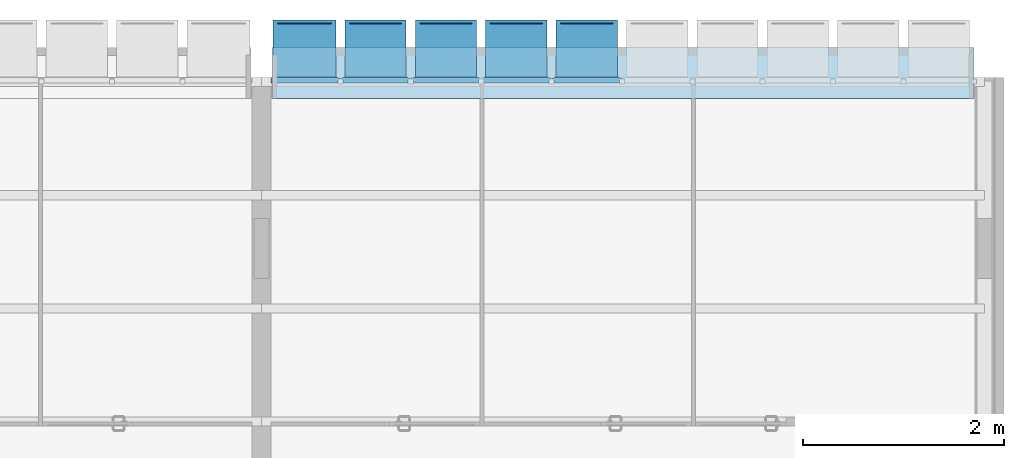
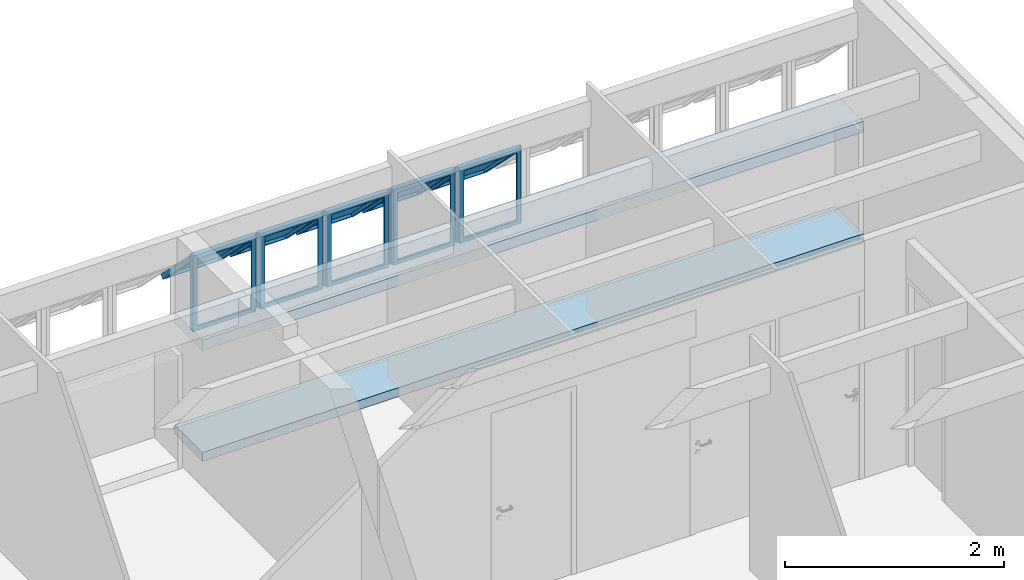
# One storey, part 16 of 40: 5 plates, 2 slabs, 1 element without a shape of its own.
"""IFC4 building model written with IfcOpenShell, lengths in millimetres."""

from ifc_helpers import new_model, entity, si_unit, converted_unit, derived_unit, direction, frame, origin_with_axes, place, context, subcontext, project, spatial, line, indexed_curve, outline, extrude, polygons, source, transform, mapped, material, layer, layer_set, layer_usage, constituent, constituent_set, type_object, element, aggregate, save


model = new_model("IFC4")

# Units and contexts
model_context = context("Model", 3, precision=0.01, world=origin_with_axes(), true_north=direction((0.0, 1.0)))
body_context = subcontext(model_context, "Body", "Model", "MODEL_VIEW")
ifc_project = project(units=[si_unit("LENGTHUNIT", "METRE", prefix="MILLI"), si_unit("AREAUNIT", "SQUARE_METRE"), si_unit("VOLUMEUNIT", "CUBIC_METRE"), converted_unit("PLANEANGLEUNIT", "DEGREE", entity("IfcPlaneAngleMeasure", 0.0174532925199), si_unit("PLANEANGLEUNIT", "RADIAN"), dimensions=[0, 0, 0, 0, 0, 0, 0]), converted_unit("TIMEUNIT", "Year", entity("IfcTimeMeasure", 31556926.0), si_unit("TIMEUNIT", "SECOND"), dimensions=[0, 0, 1, 0, 0, 0, 0]), si_unit("MASSUNIT", "GRAM", prefix="KILO"), si_unit("THERMODYNAMICTEMPERATUREUNIT", "DEGREE_CELSIUS"), si_unit("LUMINOUSINTENSITYUNIT", "LUMEN"), si_unit("ENERGYUNIT", "JOULE", prefix="MEGA"), derived_unit("THERMALCONDUCTANCEUNIT", [(si_unit("POWERUNIT", "WATT"), 1), (si_unit("LENGTHUNIT", "METRE"), -1), (si_unit("THERMODYNAMICTEMPERATUREUNIT", "KELVIN"), -1)]), derived_unit("SPECIFICHEATCAPACITYUNIT", [(si_unit("ENERGYUNIT", "JOULE"), 1), (si_unit("MASSUNIT", "GRAM", prefix="KILO"), -1), (si_unit("THERMODYNAMICTEMPERATUREUNIT", "KELVIN"), -1)]), derived_unit("MASSDENSITYUNIT", [(si_unit("MASSUNIT", "GRAM", prefix="KILO"), 1), (si_unit("VOLUMEUNIT", "CUBIC_METRE"), -1)])], contexts=[model_context])

# Site, building, storey
site_placement = place(None, origin_with_axes())
site = spatial("IfcSite", under=ifc_project, at=site_placement, Name="Local", CompositionType="ELEMENT")
building_placement = place(site_placement, origin_with_axes())
building = spatial("IfcBuilding", under=site, at=building_placement, Name="Construção", CompositionType="ELEMENT")
storey_placement = place(building_placement, frame((0.0, 0.0, 5300.0), z_axis=(0.0, 0.0, 1.0), x_axis=(1.0, 0.0, 0.0)))
storey = spatial("IfcBuildingStorey", under=building, at=storey_placement, Name="Terceiro Pavimento", CompositionType="ELEMENT", Elevation=5300.0)

# Slab
ifc_material_1 = material(Name="Concreto Armado Moldado in Loco - Estrutural")
ifc_layer_1 = layer(ifc_material_1, 120.0, ventilated="UNKNOWN", Name="Concreto Armado Moldado in Loco - Estrutural")
ifc_layer_set_1 = layer_set([ifc_layer_1], Name="Concreto Armado Moldado in Loco - Estrutural 120")
ifc_layer_usage_1 = layer_usage(ifc_layer_set_1, "AXIS3", "NEGATIVE", 120.0)
slab_type_1 = type_object("IfcSlabType", Name="Concreto Armado Moldado in Loco - Estrutural 120", PredefinedType="FLOOR")
slab_1_placement = place(storey_placement, frame((14470.0, 26160.0, 1355.0), z_axis=(0.0, 0.0, 1.0), x_axis=(1.0, 0.0, 0.0)))
element("IfcSlab", 1, at=slab_1_placement, inside=storey, type_object=slab_type_1, material=ifc_layer_usage_1, Name="APTO12-LAJE-002", PredefinedType="FLOOR", context=body_context, shape_type="SweptSolid", body=[
    extrude(outline(indexed_curve([(0.0, 0.0), (-6980.0, 0.0), (-6980.0, -510.0), (0.0, -510.0)], segments=[line(1, 2, 3, 4, 1)])), frame((0.0, 0.0, -120.0), z_axis=(0.0, 0.0, 1.0), x_axis=(1.0, 0.0, 0.0)), (0.0, 0.0, 1.0), 120.0),
])

# Window, plates
window_type = type_object("IfcWindowType", Name="Tipo de Parede Cortina", PartitioningType="NOTDEFINED", PredefinedType="NOTDEFINED")
window_placement = place(storey_placement, frame((8520.0, 25844.9790225, 1355.02054151), z_axis=(0.0, 0.0, 1.0), x_axis=(1.0, 0.0, 0.0)))
window = element("IfcWindow", 2, at=window_placement, inside=storey, type_object=window_type, Name="APTO12-JANELA-001", PredefinedType="NOTDEFINED")
ifc_material_2 = material(Name="Alumínio")
ifc_constituent_1 = constituent(ifc_material_2, Name="Alumínio")
ifc_material_3 = material(Name="Vidro")
ifc_constituent_2 = constituent(ifc_material_3, Name="Vidro")
ifc_constituent_set_1 = constituent_set(constituents=[ifc_constituent_1, ifc_constituent_2])
plate_type_1 = type_object("IfcPlateType", Name="Painel Principal 690 x 845 x 20", PredefinedType="CURTAIN_PANEL")
shared_shape_1 = source(origin_with_axes(), body_context, "Body", "Tessellation", [
    polygons([(25.0000036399, 0.0, -40.0), (674.999997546, 0.0, -40.0), (674.999997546, 0.0, -35.0), (25.0000036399, 0.0, -35.0), (70.0000036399, 45.0, -40.0), (629.999997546, 45.0, -40.0), (629.999997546, 45.0, -35.0), (70.0000036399, 45.0, -35.0)], [[[1, 2, 3, 4]], [[1, 5, 6, 2]], [[2, 6, 7, 3]], [[4, 3, 7, 8]], [[5, 1, 4, 8]], [[6, 5, 8, 7]]], closed=True),
    polygons([(674.999997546, 0.0, -40.0), (674.999997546, 844.999891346, -40.0), (674.999997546, 844.999891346, -35.0), (674.999997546, 0.0, -35.0), (629.999997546, 45.0, -40.0), (629.999997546, 799.999891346, -40.0), (629.999997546, 799.999891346, -35.0), (629.999997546, 45.0, -35.0)], [[[1, 2, 3, 4]], [[1, 5, 6, 2]], [[2, 6, 7, 3]], [[4, 3, 7, 8]], [[5, 1, 4, 8]], [[6, 5, 8, 7]]], closed=True),
    polygons([(25.0000036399, 844.999891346, -40.0), (70.0000036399, 799.999891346, -40.0), (70.0000036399, 799.999891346, -35.0), (25.0000036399, 844.999891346, -35.0), (674.999997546, 844.999891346, -40.0), (629.999997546, 799.999891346, -40.0), (629.999997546, 799.999891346, -35.0), (674.999997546, 844.999891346, -35.0)], [[[1, 2, 3, 4]], [[1, 5, 6, 2]], [[2, 6, 7, 3]], [[4, 3, 7, 8]], [[5, 1, 4, 8]], [[6, 5, 8, 7]]], closed=True),
    polygons([(25.0000036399, 0.0, -40.0), (70.0000036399, 45.0, -40.0), (70.0000036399, 45.0, -35.0), (25.0000036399, 0.0, -35.0), (25.0000036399, 844.999891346, -40.0), (70.0000036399, 799.999891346, -40.0), (70.0000036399, 799.999891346, -35.0), (25.0000036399, 844.999891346, -35.0)], [[[1, 2, 3, 4]], [[1, 5, 6, 2]], [[2, 6, 7, 3]], [[4, 3, 7, 8]], [[5, 1, 4, 8]], [[6, 5, 8, 7]]], closed=True),
    polygons([(25.0000036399, 0.0, -35.0), (674.999997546, 0.0, -35.0), (674.999997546, 0.0, 15.0), (25.0000036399, 0.0, 15.0), (45.0000036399, 20.0, -35.0), (654.999997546, 20.0, -35.0), (654.999997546, 20.0, 15.0), (45.0000036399, 20.0, 15.0)], [[[1, 2, 3, 4]], [[1, 5, 6, 2]], [[2, 6, 7, 3]], [[4, 3, 7, 8]], [[5, 1, 4, 8]], [[6, 5, 8, 7]]], closed=True),
    polygons([(674.999997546, 0.0, -35.0), (674.999997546, 844.999891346, -35.0), (674.999997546, 844.999891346, 15.0), (674.999997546, 0.0, 15.0), (654.999997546, 20.0, -35.0), (654.999997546, 824.999891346, -35.0), (654.999997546, 824.999891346, 15.0), (654.999997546, 20.0, 15.0)], [[[1, 2, 3, 4]], [[1, 5, 6, 2]], [[2, 6, 7, 3]], [[4, 3, 7, 8]], [[5, 1, 4, 8]], [[6, 5, 8, 7]]], closed=True),
    polygons([(25.0000036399, 844.999891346, -35.0), (45.0000036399, 824.999891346, -35.0), (45.0000036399, 824.999891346, 15.0), (25.0000036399, 844.999891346, 15.0), (674.999997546, 844.999891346, -35.0), (654.999997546, 824.999891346, -35.0), (654.999997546, 824.999891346, 15.0), (674.999997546, 844.999891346, 15.0)], [[[1, 2, 3, 4]], [[1, 5, 6, 2]], [[2, 6, 7, 3]], [[4, 3, 7, 8]], [[5, 1, 4, 8]], [[6, 5, 8, 7]]], closed=True),
    polygons([(25.0000036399, 0.0, -35.0), (45.0000036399, 20.0, -35.0), (45.0000036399, 20.0, 15.0), (25.0000036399, 0.0, 15.0), (25.0000036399, 844.999891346, -35.0), (45.0000036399, 824.999891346, -35.0), (45.0000036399, 824.999891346, 15.0), (25.0000036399, 844.999891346, 15.0)], [[[1, 2, 3, 4]], [[1, 5, 6, 2]], [[2, 6, 7, 3]], [[4, 3, 7, 8]], [[5, 1, 4, 8]], [[6, 5, 8, 7]]], closed=True),
    polygons([(694.999995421, 0.0, -10.0), (694.999995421, 844.999891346, -10.0), (694.999995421, 844.999891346, 10.0), (694.999995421, 0.0, 10.0), (674.999997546, 0.0, -10.0), (674.999997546, 844.999891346, -10.0), (674.999997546, 844.999891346, 10.0), (674.999997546, 0.0, 10.0)], [[[1, 2, 3, 4]], [[1, 5, 6, 2]], [[2, 6, 7, 3]], [[4, 3, 7, 8]], [[5, 1, 4, 8]], [[6, 5, 8, 7]]], closed=True),
    polygons([(5.00000576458, 844.999891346, -10.0), (5.00000576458, 0.0, -10.0), (5.00000576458, 0.0, 10.0), (5.00000576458, 844.999891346, 10.0), (25.0000036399, 844.999891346, -10.0), (25.0000036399, 0.0, -10.0), (25.0000036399, 0.0, 10.0), (25.0000036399, 844.999891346, 10.0)], [[[1, 2, 3, 4]], [[1, 5, 6, 2]], [[2, 6, 7, 3]], [[4, 3, 7, 8]], [[5, 1, 4, 8]], [[6, 5, 8, 7]]], closed=True),
    polygons([(90.0000036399, 252.243475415, 517.045737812), (90.0000036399, 757.824747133, 11.4644660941), (90.0000036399, 796.715620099, 50.3553390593), (90.0000036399, 291.13434838, 555.936610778), (45.0000036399, 220.423670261, 548.865542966), (45.0000036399, 789.644552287, -20.3553390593), (45.0000036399, 828.535425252, 18.5355339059), (45.0000036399, 259.314543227, 587.756415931)], [[[1, 2, 3, 4]], [[1, 5, 6, 2]], [[2, 6, 7, 3]], [[4, 3, 7, 8]], [[5, 1, 4, 8]], [[6, 5, 8, 7]]], closed=True),
    polygons([(654.999997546, 220.423670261, 548.865542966), (654.999997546, 789.644552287, -20.3553390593), (654.999997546, 828.535425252, 18.5355339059), (654.999997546, 259.314543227, 587.756415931), (609.999997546, 252.243475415, 517.045737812), (609.999997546, 757.824747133, 11.4644660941), (609.999997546, 796.715620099, 50.3553390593), (609.999997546, 291.13434838, 555.936610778)], [[[1, 2, 3, 4]], [[1, 5, 6, 2]], [[2, 6, 7, 3]], [[4, 3, 7, 8]], [[5, 1, 4, 8]], [[6, 5, 8, 7]]], closed=True),
    polygons([(654.999997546, 220.423670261, 548.865542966), (609.999997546, 252.243475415, 517.045737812), (609.999997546, 291.13434838, 555.936610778), (654.999997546, 259.314543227, 587.756415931), (45.0000036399, 220.423670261, 548.865542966), (90.0000036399, 252.243475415, 517.045737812), (90.0000036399, 291.13434838, 555.936610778), (45.0000036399, 259.314543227, 587.756415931)], [[[1, 2, 3, 4]], [[1, 5, 6, 2]], [[2, 6, 7, 3]], [[4, 3, 7, 8]], [[5, 1, 4, 8]], [[6, 5, 8, 7]]], closed=True),
    polygons([(45.0000036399, 789.644552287, -20.3553390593), (90.0000036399, 757.824747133, 11.4644660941), (90.0000036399, 796.715620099, 50.3553390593), (45.0000036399, 828.535425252, 18.5355339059), (654.999997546, 789.644552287, -20.3553390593), (609.999997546, 757.824747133, 11.4644660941), (609.999997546, 796.715620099, 50.3553390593), (654.999997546, 828.535425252, 18.5355339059)], [[[1, 2, 3, 4]], [[1, 5, 6, 2]], [[2, 6, 7, 3]], [[4, 3, 7, 8]], [[5, 1, 4, 8]], [[6, 5, 8, 7]]], closed=True),
    polygons([(90.0000036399, 272.749572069, 537.551834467), (609.999997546, 272.749572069, 537.551834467), (609.999997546, 284.063280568, 548.865542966), (90.0000036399, 284.063280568, 548.865542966), (90.0000036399, 778.330843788, 31.9705627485), (609.999997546, 778.330843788, 31.9705627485), (609.999997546, 789.644552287, 43.2842712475), (90.0000036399, 789.644552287, 43.2842712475)], [[[1, 2, 3, 4]], [[1, 5, 6, 2]], [[2, 6, 7, 3]], [[4, 3, 7, 8]], [[5, 1, 4, 8]], [[6, 5, 8, 7]]], closed=True),
])
plate_1_placement = place(window_placement, frame((0.0, 0.0, 422.499945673), z_axis=(0.0, 0.0, 1.0), x_axis=(1.0, 0.0, 0.0)))
plate_1 = element("IfcPlate", 3, at=plate_1_placement, type_object=plate_type_1, material=ifc_constituent_set_1, Name="APTO12-Painel-Prin-030", PredefinedType="CURTAIN_PANEL", context=body_context, shape_type="MappedRepresentation", body=[
    mapped(shared_shape_1, transform((350.0, 0.0, -422.499945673), x_axis=(-1.0, 0.0, 0.0), y_axis=(0.0, 0.0, 1.0), z_axis=(0.0, 1.0, 0.0))),
])
ifc_constituent_3 = constituent(ifc_material_2, Name="Alumínio")
ifc_constituent_4 = constituent(ifc_material_3, Name="Vidro")
ifc_constituent_set_2 = constituent_set(constituents=[ifc_constituent_3, ifc_constituent_4])
plate_2_placement = place(window_placement, frame((700.0, 0.0, 422.499945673), z_axis=(0.0, 0.0, 1.0), x_axis=(1.0, 0.0, 0.0)))
plate_2 = element("IfcPlate", 4, at=plate_2_placement, type_object=plate_type_1, material=ifc_constituent_set_2, Name="APTO12-Painel-Prin-020", PredefinedType="CURTAIN_PANEL", context=body_context, shape_type="MappedRepresentation", body=[
    mapped(shared_shape_1, transform((350.0, 0.0, -422.499945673), x_axis=(-1.0, 0.0, 0.0), y_axis=(0.0, 0.0, 1.0), z_axis=(0.0, 1.0, 0.0))),
])
ifc_constituent_5 = constituent(ifc_material_2, Name="Alumínio")
ifc_constituent_6 = constituent(ifc_material_3, Name="Vidro")
ifc_constituent_set_3 = constituent_set(constituents=[ifc_constituent_5, ifc_constituent_6])
plate_3_placement = place(window_placement, frame((1400.0, 0.0, 422.499945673), z_axis=(0.0, 0.0, 1.0), x_axis=(1.0, 0.0, 0.0)))
plate_3 = element("IfcPlate", 5, at=plate_3_placement, type_object=plate_type_1, material=ifc_constituent_set_3, Name="APTO12-Painel-Prin-029", PredefinedType="CURTAIN_PANEL", context=body_context, shape_type="MappedRepresentation", body=[
    mapped(shared_shape_1, transform((350.0, 0.0, -422.499945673), x_axis=(-1.0, 0.0, 0.0), y_axis=(0.0, 0.0, 1.0), z_axis=(0.0, 1.0, 0.0))),
])
ifc_constituent_7 = constituent(ifc_material_2, Name="Alumínio")
ifc_constituent_8 = constituent(ifc_material_3, Name="Vidro")
ifc_constituent_set_4 = constituent_set(constituents=[ifc_constituent_7, ifc_constituent_8])
plate_type_2 = type_object("IfcPlateType", Name="Painel Principal 685 x 845 x 20", PredefinedType="CURTAIN_PANEL")
shared_shape_2 = source(origin_with_axes(), body_context, "Body", "Tessellation", [
    polygons([(25.0000046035, 0.0, -40.0), (690.000079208, 0.0, -40.0), (690.000079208, 0.0, -35.0), (25.0000046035, 0.0, -35.0), (70.0000046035, 45.0, -40.0), (645.000079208, 45.0, -40.0), (645.000079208, 45.0, -35.0), (70.0000046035, 45.0, -35.0)], [[[1, 2, 3, 4]], [[1, 5, 6, 2]], [[2, 6, 7, 3]], [[4, 3, 7, 8]], [[5, 1, 4, 8]], [[6, 5, 8, 7]]], closed=True),
    polygons([(690.000079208, 0.0, -40.0), (690.000079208, 844.999923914, -40.0), (690.000079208, 844.999923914, -35.0), (690.000079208, 0.0, -35.0), (645.000079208, 45.0, -40.0), (645.000079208, 799.999923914, -40.0), (645.000079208, 799.999923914, -35.0), (645.000079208, 45.0, -35.0)], [[[1, 2, 3, 4]], [[1, 5, 6, 2]], [[2, 6, 7, 3]], [[4, 3, 7, 8]], [[5, 1, 4, 8]], [[6, 5, 8, 7]]], closed=True),
    polygons([(25.0000046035, 844.999923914, -40.0), (70.0000046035, 799.999923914, -40.0), (70.0000046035, 799.999923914, -35.0), (25.0000046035, 844.999923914, -35.0), (690.000079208, 844.999923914, -40.0), (645.000079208, 799.999923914, -40.0), (645.000079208, 799.999923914, -35.0), (690.000079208, 844.999923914, -35.0)], [[[1, 2, 3, 4]], [[1, 5, 6, 2]], [[2, 6, 7, 3]], [[4, 3, 7, 8]], [[5, 1, 4, 8]], [[6, 5, 8, 7]]], closed=True),
    polygons([(25.0000046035, 0.0, -40.0), (70.0000046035, 45.0, -40.0), (70.0000046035, 45.0, -35.0), (25.0000046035, 0.0, -35.0), (25.0000046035, 844.999923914, -40.0), (70.0000046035, 799.999923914, -40.0), (70.0000046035, 799.999923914, -35.0), (25.0000046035, 844.999923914, -35.0)], [[[1, 2, 3, 4]], [[1, 5, 6, 2]], [[2, 6, 7, 3]], [[4, 3, 7, 8]], [[5, 1, 4, 8]], [[6, 5, 8, 7]]], closed=True),
    polygons([(25.0000046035, 0.0, -35.0), (690.000079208, 0.0, -35.0), (690.000079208, 0.0, 15.0), (25.0000046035, 0.0, 15.0), (45.0000046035, 20.0, -35.0), (670.000079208, 20.0, -35.0), (670.000079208, 20.0, 15.0), (45.0000046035, 20.0, 15.0)], [[[1, 2, 3, 4]], [[1, 5, 6, 2]], [[2, 6, 7, 3]], [[4, 3, 7, 8]], [[5, 1, 4, 8]], [[6, 5, 8, 7]]], closed=True),
    polygons([(690.000079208, 0.0, -35.0), (690.000079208, 844.999923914, -35.0), (690.000079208, 844.999923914, 15.0), (690.000079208, 0.0, 15.0), (670.000079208, 20.0, -35.0), (670.000079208, 824.999923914, -35.0), (670.000079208, 824.999923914, 15.0), (670.000079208, 20.0, 15.0)], [[[1, 2, 3, 4]], [[1, 5, 6, 2]], [[2, 6, 7, 3]], [[4, 3, 7, 8]], [[5, 1, 4, 8]], [[6, 5, 8, 7]]], closed=True),
    polygons([(25.0000046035, 844.999923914, -35.0), (45.0000046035, 824.999923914, -35.0), (45.0000046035, 824.999923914, 15.0), (25.0000046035, 844.999923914, 15.0), (690.000079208, 844.999923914, -35.0), (670.000079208, 824.999923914, -35.0), (670.000079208, 824.999923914, 15.0), (690.000079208, 844.999923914, 15.0)], [[[1, 2, 3, 4]], [[1, 5, 6, 2]], [[2, 6, 7, 3]], [[4, 3, 7, 8]], [[5, 1, 4, 8]], [[6, 5, 8, 7]]], closed=True),
    polygons([(25.0000046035, 0.0, -35.0), (45.0000046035, 20.0, -35.0), (45.0000046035, 20.0, 15.0), (25.0000046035, 0.0, 15.0), (25.0000046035, 844.999923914, -35.0), (45.0000046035, 824.999923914, -35.0), (45.0000046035, 824.999923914, 15.0), (25.0000046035, 844.999923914, 15.0)], [[[1, 2, 3, 4]], [[1, 5, 6, 2]], [[2, 6, 7, 3]], [[4, 3, 7, 8]], [[5, 1, 4, 8]], [[6, 5, 8, 7]]], closed=True),
    polygons([(5.00000595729, 844.999923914, -10.0), (5.00000595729, 0.0, -10.0), (5.00000595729, 0.0, 10.0), (5.00000595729, 844.999923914, 10.0), (25.0000046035, 844.999923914, -10.0), (25.0000046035, 0.0, -10.0), (25.0000046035, 0.0, 10.0), (25.0000046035, 844.999923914, 10.0)], [[[1, 2, 3, 4]], [[1, 5, 6, 2]], [[2, 6, 7, 3]], [[4, 3, 7, 8]], [[5, 1, 4, 8]], [[6, 5, 8, 7]]], closed=True),
    polygons([(90.0000046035, 252.243484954, 517.045760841), (90.0000046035, 757.824779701, 11.4644660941), (90.0000046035, 796.715652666, 50.3553390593), (90.0000046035, 291.134357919, 555.936633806), (45.0000046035, 220.4236798, 548.865565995), (45.0000046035, 789.644584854, -20.3553390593), (45.0000046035, 828.535457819, 18.5355339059), (45.0000046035, 259.314552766, 587.75643896)], [[[1, 2, 3, 4]], [[1, 5, 6, 2]], [[2, 6, 7, 3]], [[4, 3, 7, 8]], [[5, 1, 4, 8]], [[6, 5, 8, 7]]], closed=True),
    polygons([(670.000079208, 220.4236798, 548.865565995), (670.000079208, 789.644584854, -20.3553390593), (670.000079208, 828.535457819, 18.5355339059), (670.000079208, 259.314552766, 587.75643896), (625.000079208, 252.243484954, 517.045760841), (625.000079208, 757.824779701, 11.4644660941), (625.000079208, 796.715652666, 50.3553390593), (625.000079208, 291.134357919, 555.936633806)], [[[1, 2, 3, 4]], [[1, 5, 6, 2]], [[2, 6, 7, 3]], [[4, 3, 7, 8]], [[5, 1, 4, 8]], [[6, 5, 8, 7]]], closed=True),
    polygons([(670.000079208, 220.4236798, 548.865565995), (625.000079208, 252.243484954, 517.045760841), (625.000079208, 291.134357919, 555.936633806), (670.000079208, 259.314552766, 587.75643896), (45.0000046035, 220.4236798, 548.865565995), (90.0000046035, 252.243484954, 517.045760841), (90.0000046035, 291.134357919, 555.936633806), (45.0000046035, 259.314552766, 587.75643896)], [[[1, 2, 3, 4]], [[1, 5, 6, 2]], [[2, 6, 7, 3]], [[4, 3, 7, 8]], [[5, 1, 4, 8]], [[6, 5, 8, 7]]], closed=True),
    polygons([(45.0000046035, 789.644584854, -20.3553390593), (90.0000046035, 757.824779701, 11.4644660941), (90.0000046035, 796.715652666, 50.3553390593), (45.0000046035, 828.535457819, 18.5355339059), (670.000079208, 789.644584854, -20.3553390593), (625.000079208, 757.824779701, 11.4644660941), (625.000079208, 796.715652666, 50.3553390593), (670.000079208, 828.535457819, 18.5355339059)], [[[1, 2, 3, 4]], [[1, 5, 6, 2]], [[2, 6, 7, 3]], [[4, 3, 7, 8]], [[5, 1, 4, 8]], [[6, 5, 8, 7]]], closed=True),
    polygons([(90.0000046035, 272.749581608, 537.551857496), (625.000079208, 272.749581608, 537.551857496), (625.000079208, 284.063290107, 548.865565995), (90.0000046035, 284.063290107, 548.865565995), (90.0000046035, 778.330876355, 31.9705627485), (625.000079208, 778.330876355, 31.9705627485), (625.000079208, 789.644584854, 43.2842712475), (90.0000046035, 789.644584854, 43.2842712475)], [[[1, 2, 3, 4]], [[1, 5, 6, 2]], [[2, 6, 7, 3]], [[4, 3, 7, 8]], [[5, 1, 4, 8]], [[6, 5, 8, 7]]], closed=True),
])
plate_4_placement = place(window_placement, frame((-695.000037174, 0.0, 422.499953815), z_axis=(0.0, 0.0, 1.0), x_axis=(1.0, 0.0, 0.0)))
plate_4 = element("IfcPlate", 6, at=plate_4_placement, type_object=plate_type_2, material=ifc_constituent_set_4, Name="APTO12-Painel-Prin-031", PredefinedType="CURTAIN_PANEL", context=body_context, shape_type="MappedRepresentation", body=[
    mapped(shared_shape_2, transform((345.000037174, 0.0, -422.499953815), x_axis=(-1.0, 0.0, 0.0), y_axis=(0.0, 0.0, 1.0), z_axis=(0.0, 1.0, 0.0))),
])
ifc_constituent_9 = constituent(ifc_material_2, Name="Alumínio")
ifc_constituent_10 = constituent(ifc_material_3, Name="Vidro")
ifc_constituent_set_5 = constituent_set(constituents=[ifc_constituent_9, ifc_constituent_10])
shared_shape_3 = source(origin_with_axes(), body_context, "Body", "Tessellation", [
    polygons([(25.0000036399, 0.0, -40.0), (674.999997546, 0.0, -40.0), (674.999997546, 0.0, -35.0), (25.0000036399, 0.0, -35.0), (70.0000036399, 45.0, -40.0), (629.999997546, 45.0, -40.0), (629.999997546, 45.0, -35.0), (70.0000036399, 45.0, -35.0)], [[[1, 2, 3, 4]], [[1, 5, 6, 2]], [[2, 6, 7, 3]], [[4, 3, 7, 8]], [[5, 1, 4, 8]], [[6, 5, 8, 7]]], closed=True),
    polygons([(674.999997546, 0.0, -40.0), (674.999997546, 844.999891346, -40.0), (674.999997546, 844.999891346, -35.0), (674.999997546, 0.0, -35.0), (629.999997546, 45.0, -40.0), (629.999997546, 799.999891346, -40.0), (629.999997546, 799.999891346, -35.0), (629.999997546, 45.0, -35.0)], [[[1, 2, 3, 4]], [[1, 5, 6, 2]], [[2, 6, 7, 3]], [[4, 3, 7, 8]], [[5, 1, 4, 8]], [[6, 5, 8, 7]]], closed=True),
    polygons([(25.0000036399, 844.999891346, -40.0), (70.0000036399, 799.999891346, -40.0), (70.0000036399, 799.999891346, -35.0), (25.0000036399, 844.999891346, -35.0), (674.999997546, 844.999891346, -40.0), (629.999997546, 799.999891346, -40.0), (629.999997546, 799.999891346, -35.0), (674.999997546, 844.999891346, -35.0)], [[[1, 2, 3, 4]], [[1, 5, 6, 2]], [[2, 6, 7, 3]], [[4, 3, 7, 8]], [[5, 1, 4, 8]], [[6, 5, 8, 7]]], closed=True),
    polygons([(25.0000036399, 0.0, -40.0), (70.0000036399, 45.0, -40.0), (70.0000036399, 45.0, -35.0), (25.0000036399, 0.0, -35.0), (25.0000036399, 844.999891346, -40.0), (70.0000036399, 799.999891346, -40.0), (70.0000036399, 799.999891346, -35.0), (25.0000036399, 844.999891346, -35.0)], [[[1, 2, 3, 4]], [[1, 5, 6, 2]], [[2, 6, 7, 3]], [[4, 3, 7, 8]], [[5, 1, 4, 8]], [[6, 5, 8, 7]]], closed=True),
    polygons([(25.0000036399, 0.0, -35.0), (674.999997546, 0.0, -35.0), (674.999997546, 0.0, 15.0), (25.0000036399, 0.0, 15.0), (45.0000036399, 20.0, -35.0), (654.999997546, 20.0, -35.0), (654.999997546, 20.0, 15.0), (45.0000036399, 20.0, 15.0)], [[[1, 2, 3, 4]], [[1, 5, 6, 2]], [[2, 6, 7, 3]], [[4, 3, 7, 8]], [[5, 1, 4, 8]], [[6, 5, 8, 7]]], closed=True),
    polygons([(674.999997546, 0.0, -35.0), (674.999997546, 844.999891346, -35.0), (674.999997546, 844.999891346, 15.0), (674.999997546, 0.0, 15.0), (654.999997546, 20.0, -35.0), (654.999997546, 824.999891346, -35.0), (654.999997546, 824.999891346, 15.0), (654.999997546, 20.0, 15.0)], [[[1, 2, 3, 4]], [[1, 5, 6, 2]], [[2, 6, 7, 3]], [[4, 3, 7, 8]], [[5, 1, 4, 8]], [[6, 5, 8, 7]]], closed=True),
    polygons([(25.0000036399, 844.999891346, -35.0), (45.0000036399, 824.999891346, -35.0), (45.0000036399, 824.999891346, 15.0), (25.0000036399, 844.999891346, 15.0), (674.999997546, 844.999891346, -35.0), (654.999997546, 824.999891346, -35.0), (654.999997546, 824.999891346, 15.0), (674.999997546, 844.999891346, 15.0)], [[[1, 2, 3, 4]], [[1, 5, 6, 2]], [[2, 6, 7, 3]], [[4, 3, 7, 8]], [[5, 1, 4, 8]], [[6, 5, 8, 7]]], closed=True),
    polygons([(25.0000036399, 0.0, -35.0), (45.0000036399, 20.0, -35.0), (45.0000036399, 20.0, 15.0), (25.0000036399, 0.0, 15.0), (25.0000036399, 844.999891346, -35.0), (45.0000036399, 824.999891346, -35.0), (45.0000036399, 824.999891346, 15.0), (25.0000036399, 844.999891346, 15.0)], [[[1, 2, 3, 4]], [[1, 5, 6, 2]], [[2, 6, 7, 3]], [[4, 3, 7, 8]], [[5, 1, 4, 8]], [[6, 5, 8, 7]]], closed=True),
    polygons([(694.999995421, 0.0, -10.0), (694.999995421, 844.999891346, -10.0), (694.999995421, 844.999891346, 10.0), (694.999995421, 0.0, 10.0), (674.999997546, 0.0, -10.0), (674.999997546, 844.999891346, -10.0), (674.999997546, 844.999891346, 10.0), (674.999997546, 0.0, 10.0)], [[[1, 2, 3, 4]], [[1, 5, 6, 2]], [[2, 6, 7, 3]], [[4, 3, 7, 8]], [[5, 1, 4, 8]], [[6, 5, 8, 7]]], closed=True),
    polygons([(5.00000576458, 844.999891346, -10.0), (5.00000576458, 0.0, -10.0), (5.00000576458, 0.0, 10.0), (5.00000576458, 844.999891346, 10.0), (25.0000036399, 844.999891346, -10.0), (25.0000036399, 0.0, -10.0), (25.0000036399, 0.0, 10.0), (25.0000036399, 844.999891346, 10.0)], [[[1, 2, 3, 4]], [[1, 5, 6, 2]], [[2, 6, 7, 3]], [[4, 3, 7, 8]], [[5, 1, 4, 8]], [[6, 5, 8, 7]]], closed=True),
    polygons([(90.0000036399, 252.243475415, 517.045737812), (90.0000036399, 757.824747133, 11.4644660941), (90.0000036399, 796.715620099, 50.3553390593), (90.0000036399, 291.13434838, 555.936610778), (45.0000036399, 220.423670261, 548.865542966), (45.0000036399, 789.644552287, -20.3553390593), (45.0000036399, 828.535425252, 18.5355339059), (45.0000036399, 259.314543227, 587.756415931)], [[[1, 2, 3, 4]], [[1, 5, 6, 2]], [[2, 6, 7, 3]], [[4, 3, 7, 8]], [[5, 1, 4, 8]], [[6, 5, 8, 7]]], closed=True),
    polygons([(654.999997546, 220.423670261, 548.865542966), (654.999997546, 789.644552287, -20.3553390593), (654.999997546, 828.535425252, 18.5355339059), (654.999997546, 259.314543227, 587.756415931), (609.999997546, 252.243475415, 517.045737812), (609.999997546, 757.824747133, 11.4644660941), (609.999997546, 796.715620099, 50.3553390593), (609.999997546, 291.13434838, 555.936610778)], [[[1, 2, 3, 4]], [[1, 5, 6, 2]], [[2, 6, 7, 3]], [[4, 3, 7, 8]], [[5, 1, 4, 8]], [[6, 5, 8, 7]]], closed=True),
    polygons([(654.999997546, 220.423670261, 548.865542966), (609.999997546, 252.243475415, 517.045737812), (609.999997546, 291.13434838, 555.936610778), (654.999997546, 259.314543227, 587.756415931), (45.0000036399, 220.423670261, 548.865542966), (90.0000036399, 252.243475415, 517.045737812), (90.0000036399, 291.13434838, 555.936610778), (45.0000036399, 259.314543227, 587.756415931)], [[[1, 2, 3, 4]], [[1, 5, 6, 2]], [[2, 6, 7, 3]], [[4, 3, 7, 8]], [[5, 1, 4, 8]], [[6, 5, 8, 7]]], closed=True),
    polygons([(45.0000036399, 789.644552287, -20.3553390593), (90.0000036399, 757.824747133, 11.4644660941), (90.0000036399, 796.715620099, 50.3553390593), (45.0000036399, 828.535425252, 18.5355339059), (654.999997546, 789.644552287, -20.3553390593), (609.999997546, 757.824747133, 11.4644660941), (609.999997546, 796.715620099, 50.3553390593), (654.999997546, 828.535425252, 18.5355339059)], [[[1, 2, 3, 4]], [[1, 5, 6, 2]], [[2, 6, 7, 3]], [[4, 3, 7, 8]], [[5, 1, 4, 8]], [[6, 5, 8, 7]]], closed=True),
    polygons([(90.0000036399, 272.749572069, 537.551834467), (609.999997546, 272.749572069, 537.551834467), (609.999997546, 284.063280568, 548.865542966), (90.0000036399, 284.063280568, 548.865542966), (90.0000036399, 778.330843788, 31.9705627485), (609.999997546, 778.330843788, 31.9705627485), (609.999997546, 789.644552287, 43.2842712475), (90.0000036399, 789.644552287, 43.2842712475)], [[[1, 2, 3, 4]], [[1, 5, 6, 2]], [[2, 6, 7, 3]], [[4, 3, 7, 8]], [[5, 1, 4, 8]], [[6, 5, 8, 7]]], closed=True),
])
plate_5_placement = place(window_placement, frame((2100.0, 0.0, 422.499945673), z_axis=(0.0, 0.0, 1.0), x_axis=(1.0, 0.0, 0.0)))
plate_5 = element("IfcPlate", 7, at=plate_5_placement, type_object=plate_type_1, material=ifc_constituent_set_5, Name="APTO12-Painel-Prin-025", PredefinedType="CURTAIN_PANEL", context=body_context, shape_type="MappedRepresentation", body=[
    mapped(shared_shape_3, transform((350.0, 0.0, -422.499945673), x_axis=(-1.0, 0.0, 0.0), y_axis=(0.0, 0.0, 1.0), z_axis=(0.0, 1.0, 0.0))),
])
aggregate(window, [plate_1, plate_4, plate_5, plate_2, plate_3])

# Slab
ifc_layer_2 = layer(ifc_material_1, 100.0, ventilated="UNKNOWN", Name="Concreto Armado Moldado in Loco - Estrutural")
ifc_layer_set_2 = layer_set([ifc_layer_2], Name="Concreto Armado Moldado in Loco - Estrutural 100")
ifc_layer_usage_2 = layer_usage(ifc_layer_set_2, "AXIS3", "NEGATIVE", 100.0)
slab_type_2 = type_object("IfcSlabType", Name="Concreto Armado Moldado in Loco - Estrutural 100", PredefinedType="FLOOR")
slab_2_placement = place(storey_placement, frame((14470.0, 26160.0, 100.0), z_axis=(0.0, 0.0, 1.0), x_axis=(1.0, 0.0, 0.0)))
element("IfcSlab", 8, at=slab_2_placement, inside=storey, type_object=slab_type_2, material=ifc_layer_usage_2, Name="APTO12-LAJE-001", PredefinedType="FLOOR", context=body_context, shape_type="SweptSolid", body=[
    extrude(outline(indexed_curve([(0.0, 0.0), (-6980.0, 0.0), (-6980.0, -510.0), (0.0, -510.0)], segments=[line(1, 2, 3, 4, 1)])), frame((0.0, 0.0, -100.0), z_axis=(0.0, 0.0, 1.0), x_axis=(1.0, 0.0, 0.0)), (0.0, 0.0, 1.0), 100.0),
])

save(model, "model.ifc")
